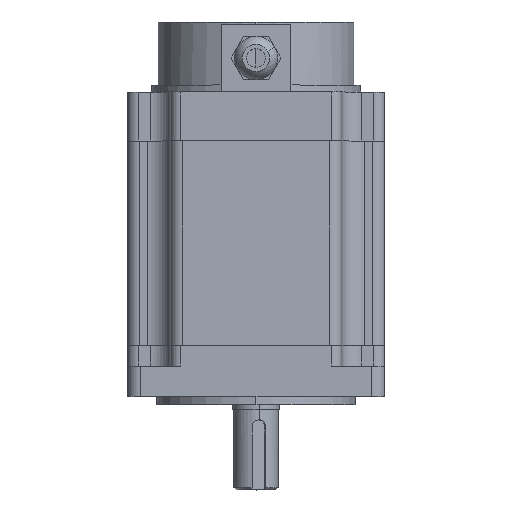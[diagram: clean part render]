
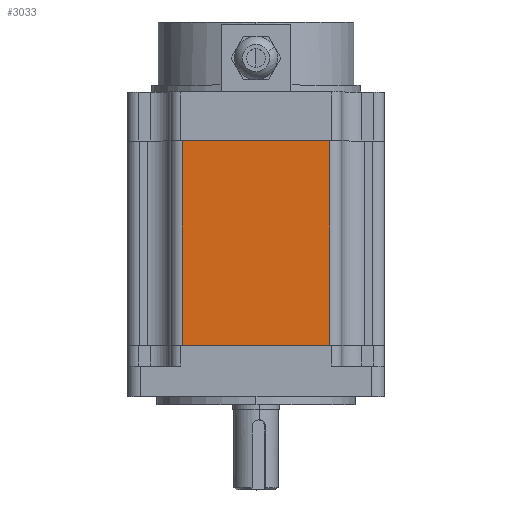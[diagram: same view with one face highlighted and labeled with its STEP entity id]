
A CAD part, top view. The second image highlights one B-rep face of the part: STEP entity #3033.
In plain terms, the highlighted planar face has unit normal (0, 0, 1) as drawn and (0, -1, 0) by its records, which use the part's own axes.
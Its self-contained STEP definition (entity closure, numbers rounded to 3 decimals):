
#24 = ORIENTED_EDGE ( 'NONE', *, *, #6618, .T. ) ;
#64 = DIRECTION ( 'NONE',  ( -1., 0., 0. ) ) ;
#208 = DIRECTION ( 'NONE',  ( 1., 0., 0. ) ) ;
#426 = VECTOR ( 'NONE', #6980, 1000. ) ;
#434 = ORIENTED_EDGE ( 'NONE', *, *, #4299, .F. ) ;
#1090 = EDGE_CURVE ( 'NONE', #6376, #22535, #19749, .T. ) ;
#1648 = CARTESIAN_POINT ( 'NONE',  ( 31.7, -55., 0. ) ) ;
#3033 = ADVANCED_FACE ( 'NONE', ( #13490 ), #14052, .F. ) ;
#4044 = VECTOR ( 'NONE', #21790, 1000. ) ;
#4299 = EDGE_CURVE ( 'NONE', #22535, #10121, #8370, .T. ) ;
#4919 = CARTESIAN_POINT ( 'NONE',  ( -31.7, -55., 0. ) ) ;
#5260 = DIRECTION ( 'NONE',  ( 1., 0., 0. ) ) ;
#5490 = DIRECTION ( 'NONE',  ( 0., 1., 0. ) ) ;
#6376 = VERTEX_POINT ( 'NONE', #15889 ) ;
#6592 = CARTESIAN_POINT ( 'NONE',  ( -31.7, -55., 87.5 ) ) ;
#6618 = EDGE_CURVE ( 'NONE', #6376, #10162, #11791, .T. ) ;
#6980 = DIRECTION ( 'NONE',  ( 0., 0., -1. ) ) ;
#7319 = ORIENTED_EDGE ( 'NONE', *, *, #1090, .F. ) ;
#8370 = LINE ( 'NONE', #15880, #426 ) ;
#9099 = CARTESIAN_POINT ( 'NONE',  ( -31.7, -55., 87.5 ) ) ;
#9620 = EDGE_LOOP ( 'NONE', ( #16674, #434, #7319, #24 ) ) ;
#10059 = VECTOR ( 'NONE', #208, 1000. ) ;
#10121 = VERTEX_POINT ( 'NONE', #1648 ) ;
#10162 = VERTEX_POINT ( 'NONE', #12164 ) ;
#11212 = VECTOR ( 'NONE', #5260, 1000. ) ;
#11791 = LINE ( 'NONE', #6592, #4044 ) ;
#12013 = CARTESIAN_POINT ( 'NONE',  ( 31.7, -55., 87.5 ) ) ;
#12164 = CARTESIAN_POINT ( 'NONE',  ( -31.7, -55., 0. ) ) ;
#12535 = CARTESIAN_POINT ( 'NONE',  ( -31.7, -55., 87.5 ) ) ;
#13490 = FACE_OUTER_BOUND ( 'NONE', #9620, .T. ) ;
#14052 = PLANE ( 'NONE',  #17365 ) ;
#15880 = CARTESIAN_POINT ( 'NONE',  ( 31.7, -55., 87.5 ) ) ;
#15889 = CARTESIAN_POINT ( 'NONE',  ( -31.7, -55., 87.5 ) ) ;
#16674 = ORIENTED_EDGE ( 'NONE', *, *, #19097, .T. ) ;
#17365 = AXIS2_PLACEMENT_3D ( 'NONE', #12535, #5490, #64 ) ;
#19097 = EDGE_CURVE ( 'NONE', #10162, #10121, #19146, .T. ) ;
#19146 = LINE ( 'NONE', #4919, #11212 ) ;
#19749 = LINE ( 'NONE', #9099, #10059 ) ;
#21790 = DIRECTION ( 'NONE',  ( 0., 0., -1. ) ) ;
#22535 = VERTEX_POINT ( 'NONE', #12013 ) ;
